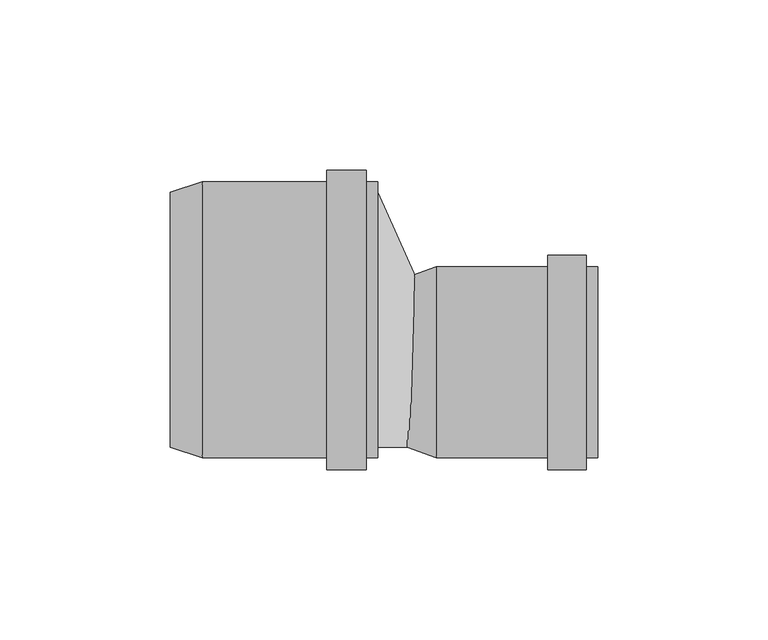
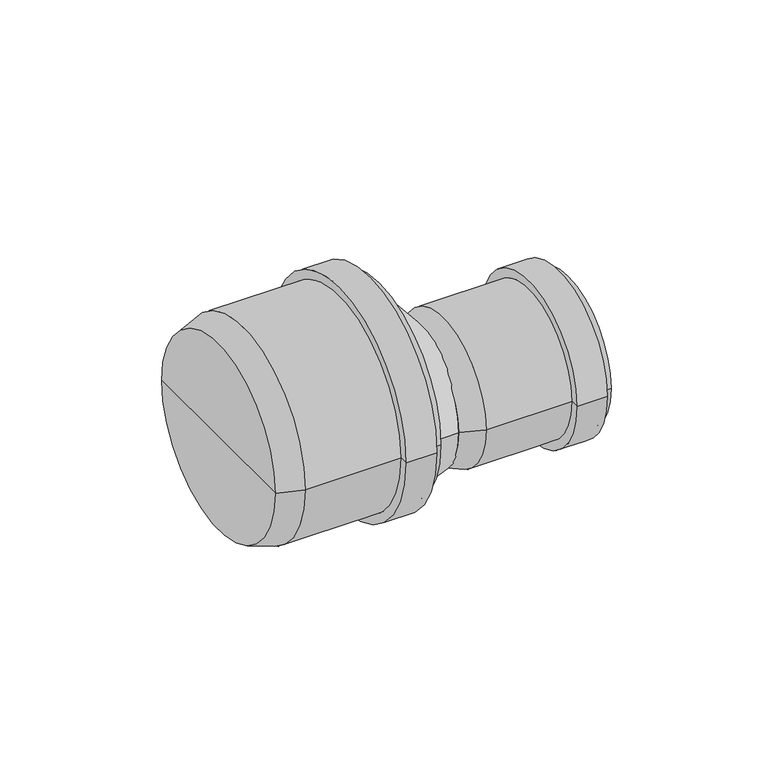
"""IFC4 building model written with IfcOpenShell, lengths in millimetres: pipe fitting geometry, pf_HTR_red-nes-kratka : pf_HTR_red-nes-kratka."""

from ifc_helpers import new_model, si_unit, frame, origin, place, context, project, spatial, polyline, circle_curve, source, transform, mapped, element, save
from ifc_brep_helpers import plane_surface, cylinder_surface, revolved_surface, spline_surface, advanced_brep


def pipe_fitting_c5070b6b(model_context):
    return source(origin(), model_context, "Body", "AdvancedBrep", [
        advanced_brep(
        [(-61.0, -37.5, 0.0), (-61.0, 37.5, 0.0), (-51.5, 40.6, 0.0), (-51.5, -40.6, 0.0), (-61.0, 0.0, 0.0), (0.0, -40.6, 0.0), (0.0, 40.6, 0.0), (0.0, 0.0, 0.0), (-3.4, -40.6, 0.0), (-3.4, 40.6, 0.0), (-3.4, -44.0, 0.0), (-3.4, 44.0, 0.0), (-15.0, -44.0, 0.0), (-15.0, 44.0, 0.0), (-15.0, -40.6, 0.0), (-15.0, 40.6, 0.0)],
        [
            (0, 1, circle_curve(frame((-61.0, 0.0, 0.0), z_axis=(1.0, 0.0, 0.0), x_axis=(0.0, 1.0, 0.0)), 37.5)),
            (1, 2),
            (2, 3, circle_curve(frame((-51.5, 0.0, 0.0), z_axis=(-1.0, 0.0, 0.0), x_axis=(0.0, 1.0, 0.0)), 40.6)),
            (3, 0),
            (1, 0, circle_curve(frame((-61.0, 0.0, 0.0), z_axis=(1.0, 0.0, 0.0), x_axis=(0.0, 1.0, 0.0)), 37.5)),
            (3, 2, circle_curve(frame((-51.5, 0.0, 0.0), z_axis=(-1.0, 0.0, 0.0), x_axis=(0.0, 1.0, 0.0)), 40.6)),
            (4, 1),
            (0, 4),
            (5, 6, circle_curve(frame((0.0, 0.0, 0.0), z_axis=(1.0, 0.0, 0.0), x_axis=(0.0, 1.0, 0.0)), 40.6)),
            (6, 7),
            (7, 5),
            (6, 5, circle_curve(frame((0.0, 0.0, 0.0), z_axis=(1.0, 0.0, 0.0), x_axis=(0.0, 1.0, 0.0)), 40.6)),
            (8, 9, circle_curve(frame((-3.4, 0.0, 0.0), z_axis=(1.0, 0.0, 0.0), x_axis=(0.0, 1.0, 0.0)), 40.6)),
            (9, 6),
            (5, 8),
            (9, 8, circle_curve(frame((-3.4, 0.0, 0.0), z_axis=(1.0, 0.0, 0.0), x_axis=(0.0, 1.0, 0.0)), 40.6)),
            (10, 11, circle_curve(frame((-3.4, 0.0, 0.0), z_axis=(1.0, 0.0, 0.0), x_axis=(0.0, 1.0, 0.0)), 44.0)),
            (11, 9),
            (8, 10),
            (11, 10, circle_curve(frame((-3.4, 0.0, 0.0), z_axis=(1.0, 0.0, 0.0), x_axis=(0.0, 1.0, 0.0)), 44.0)),
            (12, 13, circle_curve(frame((-15.0, 0.0, 0.0), z_axis=(1.0, 0.0, 0.0), x_axis=(0.0, 1.0, 0.0)), 44.0)),
            (13, 11),
            (10, 12),
            (13, 12, circle_curve(frame((-15.0, 0.0, 0.0), z_axis=(1.0, 0.0, 0.0), x_axis=(0.0, 1.0, 0.0)), 44.0)),
            (14, 15, circle_curve(frame((-15.0, 0.0, 0.0), z_axis=(1.0, 0.0, 0.0), x_axis=(0.0, 1.0, 0.0)), 40.6)),
            (15, 13),
            (12, 14),
            (15, 14, circle_curve(frame((-15.0, 0.0, 0.0), z_axis=(1.0, 0.0, 0.0), x_axis=(0.0, 1.0, 0.0)), 40.6)),
            (2, 15),
            (14, 3),
        ],
        [
            revolved_surface(polyline([(-51.5, 40.6, 0.0), (-61.0, 37.5, 0.0)]), (-61.0, 0.0, 0.0), (-1.0, 0.0, 0.0)),
            plane_surface(frame((-61.0, 0.0, 0.0), z_axis=(-1.0, 0.0, 0.0), x_axis=(0.0, 1.0, 0.0))),
            plane_surface(frame((0.0, 0.0, 0.0), z_axis=(1.0, 0.0, 0.0), x_axis=(0.0, 1.0, 0.0))),
            cylinder_surface(frame((-61.0, 0.0, 0.0), z_axis=(-1.0, 0.0, 0.0), x_axis=(0.0, 1.0, 0.0)), 40.6),
            plane_surface(frame((-3.4, 0.0, 0.0), z_axis=(1.0, 0.0, 0.0), x_axis=(0.0, 1.0, 0.0))),
            cylinder_surface(frame((-61.0, 0.0, 0.0), z_axis=(-1.0, 0.0, 0.0), x_axis=(0.0, 1.0, 0.0)), 44.0),
            plane_surface(frame((-15.0, 0.0, 0.0), z_axis=(-1.0, 0.0, 0.0), x_axis=(0.0, 1.0, 0.0))),
        ],
        [
            (0, [[1, 2, 3, 4]]),
            (0, [[5, -4, 6, -2]]),
            (1, [[7, -1, 8]]),
            (1, [[-8, -5, -7]]),
            (2, [[9, 10, 11]]),
            (2, [[12, -11, -10]]),
            (3, [[13, 14, -9, 15]]),
            (3, [[16, -15, -12, -14]]),
            (4, [[17, 18, -13, 19]]),
            (4, [[20, -19, -16, -18]]),
            (5, [[21, 22, -17, 23]]),
            (5, [[24, -23, -20, -22]]),
            (6, [[25, 26, -21, 27]]),
            (6, [[28, -27, -24, -26]]),
            (3, [[-3, 29, -25, 30]]),
            (3, [[-6, -30, -28, -29]]),
        ],
    ),
        advanced_brep(
        [(8.75, -37.5, 0.0), (8.75, 12.5, 0.0), (17.25, 15.6, 0.0), (17.25, -40.6, 0.0), (8.75, -12.5, 0.0), (64.75, -40.6, 0.0), (64.75, 15.6, 0.0), (64.75, -12.5, 0.0), (61.35, -40.6, 0.0), (61.35, 15.6, 0.0), (61.35, -44.0, 0.0), (61.35, 19.0, 0.0), (49.95, -44.0, 0.0), (49.95, 19.0, 0.0), (49.95, -40.6, 0.0), (49.95, 15.6, 0.0)],
        [
            (0, 1, circle_curve(frame((8.75, -12.5, 0.0), z_axis=(1.0, 0.0, 0.0), x_axis=(0.0, 1.0, 0.0)), 25.0)),
            (1, 2),
            (2, 3, circle_curve(frame((17.25, -12.5, 0.0), z_axis=(-1.0, 0.0, 0.0), x_axis=(0.0, 1.0, 0.0)), 28.1)),
            (3, 0),
            (1, 0, circle_curve(frame((8.75, -12.5, 0.0), z_axis=(1.0, 0.0, 0.0), x_axis=(0.0, 1.0, 0.0)), 25.0)),
            (3, 2, circle_curve(frame((17.25, -12.5, 0.0), z_axis=(-1.0, 0.0, 0.0), x_axis=(0.0, 1.0, 0.0)), 28.1)),
            (4, 1),
            (0, 4),
            (5, 6, circle_curve(frame((64.75, -12.5, 0.0), z_axis=(1.0, 0.0, 0.0), x_axis=(0.0, 1.0, 0.0)), 28.1)),
            (6, 7),
            (7, 5),
            (6, 5, circle_curve(frame((64.75, -12.5, 0.0), z_axis=(1.0, 0.0, 0.0), x_axis=(0.0, 1.0, 0.0)), 28.1)),
            (8, 9, circle_curve(frame((61.35, -12.5, 0.0), z_axis=(1.0, 0.0, 0.0), x_axis=(0.0, 1.0, 0.0)), 28.1)),
            (9, 6),
            (5, 8),
            (9, 8, circle_curve(frame((61.35, -12.5, 0.0), z_axis=(1.0, 0.0, 0.0), x_axis=(0.0, 1.0, 0.0)), 28.1)),
            (10, 11, circle_curve(frame((61.35, -12.5, 0.0), z_axis=(1.0, 0.0, 0.0), x_axis=(0.0, 1.0, 0.0)), 31.5)),
            (11, 9),
            (8, 10),
            (11, 10, circle_curve(frame((61.35, -12.5, 0.0), z_axis=(1.0, 0.0, 0.0), x_axis=(0.0, 1.0, 0.0)), 31.5)),
            (12, 13, circle_curve(frame((49.95, -12.5, 0.0), z_axis=(1.0, 0.0, 0.0), x_axis=(0.0, 1.0, 0.0)), 31.5)),
            (13, 11),
            (10, 12),
            (13, 12, circle_curve(frame((49.95, -12.5, 0.0), z_axis=(1.0, 0.0, 0.0), x_axis=(0.0, 1.0, 0.0)), 31.5)),
            (14, 15, circle_curve(frame((49.95, -12.5, 0.0), z_axis=(1.0, 0.0, 0.0), x_axis=(0.0, 1.0, 0.0)), 28.1)),
            (15, 13),
            (12, 14),
            (15, 14, circle_curve(frame((49.95, -12.5, 0.0), z_axis=(1.0, 0.0, 0.0), x_axis=(0.0, 1.0, 0.0)), 28.1)),
            (2, 15),
            (14, 3),
        ],
        [
            revolved_surface(polyline([(17.25, 15.6, 0.0), (8.75, 12.5, 0.0)]), (8.75, -12.5, 0.0), (-1.0, 0.0, 0.0)),
            plane_surface(frame((8.75, -12.5, 0.0), z_axis=(-1.0, 0.0, 0.0), x_axis=(0.0, 1.0, 0.0))),
            plane_surface(frame((64.75, -12.5, 0.0), z_axis=(1.0, 0.0, 0.0), x_axis=(0.0, 1.0, 0.0))),
            cylinder_surface(frame((8.75, -12.5, 0.0), z_axis=(-1.0, 0.0, 0.0), x_axis=(0.0, 1.0, 0.0)), 28.1),
            plane_surface(frame((61.35, -12.5, 0.0), z_axis=(1.0, 0.0, 0.0), x_axis=(0.0, 1.0, 0.0))),
            cylinder_surface(frame((8.75, -12.5, 0.0), z_axis=(-1.0, 0.0, 0.0), x_axis=(0.0, 1.0, 0.0)), 31.5),
            plane_surface(frame((49.95, -12.5, 0.0), z_axis=(-1.0, 0.0, 0.0), x_axis=(0.0, 1.0, 0.0))),
        ],
        [
            (0, [[1, 2, 3, 4]]),
            (0, [[5, -4, 6, -2]]),
            (1, [[7, -1, 8]]),
            (1, [[-8, -5, -7]]),
            (2, [[9, 10, 11]]),
            (2, [[12, -11, -10]]),
            (3, [[13, 14, -9, 15]]),
            (3, [[16, -15, -12, -14]]),
            (4, [[17, 18, -13, 19]]),
            (4, [[20, -19, -16, -18]]),
            (5, [[21, 22, -17, 23]]),
            (5, [[24, -23, -20, -22]]),
            (6, [[25, 26, -21, 27]]),
            (6, [[28, -27, -24, -26]]),
            (3, [[-3, 29, -25, 30]]),
            (3, [[-6, -30, -28, -29]]),
        ],
    ),
        advanced_brep(
        [(11.25, -37.5, 0.0), (11.25, 12.5, 0.0), (0.0, -37.5, 0.0), (0.0, 37.5, 0.0)],
        [
            (0, 1, circle_curve(frame((11.25, -12.5, 0.0), z_axis=(1.0, 0.0, 0.0), x_axis=(0.0, 1.0, 0.0)), 25.0)),
            (1, 0, circle_curve(frame((11.25, -12.5, 0.0), z_axis=(1.0, 0.0, 0.0), x_axis=(0.0, 1.0, 0.0)), 25.0)),
            (2, 3, circle_curve(frame((0.0, 0.0, 0.0), z_axis=(-1.0, 0.0, 0.0), x_axis=(0.0, 1.0, 0.0)), 37.5)),
            (3, 2, circle_curve(frame((0.0, 0.0, 0.0), z_axis=(-1.0, 0.0, 0.0), x_axis=(0.0, 1.0, 0.0)), 37.5)),
            (3, 1),
            (0, 2),
        ],
        [
            plane_surface(frame((11.25, -12.5, 0.0), z_axis=(1.0, 0.0, 0.0), x_axis=(0.0, 0.0, -1.0))),
            plane_surface(frame((0.0, 0.0, 0.0), z_axis=(-1.0, 0.0, 0.0), x_axis=(0.0, 0.0, -1.0))),
            spline_surface(2, 1, [[(0.0, -37.5, 0.0), (11.25, -37.5, 0.0)], [(0.0, -37.5, -37.5), (11.25, -37.5, -25.0)], [(0.0, 0.0, -37.5), (11.25, -12.5, -25.0)], [(0.0, 37.5, -37.5), (11.25, 12.5, -25.0)], [(0.0, 37.5, 0.0), (11.25, 12.5, 0.0)]], [3, 2, 3], [2, 2], [0.0, 1.0, 2.0], [0.0, 1.0], weights=[[1.0, 1.0], [0.7071067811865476, 0.7071067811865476], [1.0, 1.0], [0.7071067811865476, 0.7071067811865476], [1.0, 1.0]]),
            spline_surface(2, 1, [[(0.0, 37.5, 0.0), (11.25, 12.5, 0.0)], [(0.0, 37.5, 37.5), (11.25, 12.5, 25.0)], [(0.0, 0.0, 37.5), (11.25, -12.5, 25.0)], [(0.0, -37.5, 37.5), (11.25, -37.5, 25.0)], [(0.0, -37.5, 0.0), (11.25, -37.5, 0.0)]], [3, 2, 3], [2, 2], [0.0, 1.0, 2.0], [0.0, 1.0], weights=[[1.0, 1.0], [0.7071067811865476, 0.7071067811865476], [1.0, 1.0], [0.7071067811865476, 0.7071067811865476], [1.0, 1.0]]),
        ],
        [
            (0, [[1, 2]]),
            (1, [[3, 4]]),
            (2, [[-4, 5, -1, 6]]),
            (3, [[-3, -6, -2, -5]]),
        ],
    ),
    ])


if __name__ == "__main__":
    model = new_model("IFC4")
    model_context = context("Model", 3, world=origin())
    ifc_project = project(units=[si_unit("LENGTHUNIT", "METRE", prefix="MILLI")], contexts=[model_context])
    site = spatial("IfcSite", under=ifc_project)
    building = spatial("IfcBuilding", under=site)
    placement = place(None, origin())
    pipe_fitting_shape = pipe_fitting_c5070b6b(model_context)
    element("IfcPipeFitting", 1, ObjectType="pf_HTR_red-nes-kratka : pf_HTR_red-nes-kratka", at=placement, inside=building, context=model_context, shape_type="MappedRepresentation", body=[
        mapped(pipe_fitting_shape, transform((0.0, 0.0, 0.0), x_axis=(1.0, 0.0, 0.0), y_axis=(0.0, 1.0, 0.0), z_axis=(0.0, 0.0, 1.0))),
    ])
    save(model, "model.ifc")
